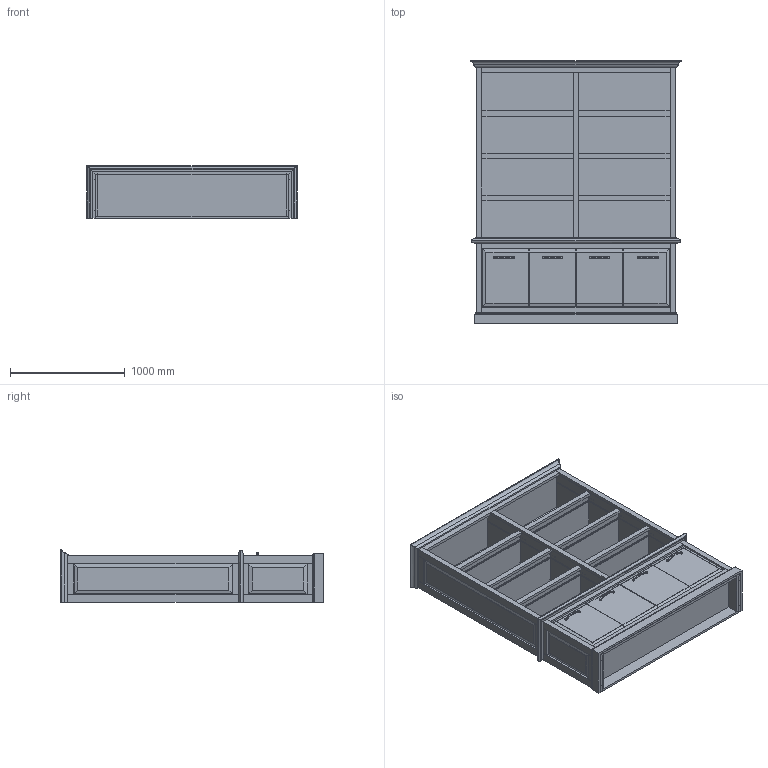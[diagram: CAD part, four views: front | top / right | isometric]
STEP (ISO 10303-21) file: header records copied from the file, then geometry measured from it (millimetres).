
FILE_DESCRIPTION(/* description */ ('','CAx-IF Rec.Pracs.---Representation and Presentation of Product Manufacturing Information (PMI)---4.0---2014-10-13'),/* implementation_level */ '2;1');
FILE_NAME(/* name */ 'CREDENZA STORAGE_CAMBRIDGE 4.stp',/* time_stamp */ '2024-12-07T17:43:35-05:00',/* author */ ('mbowman'),/* organization */ (''),/* preprocessor_version */ 'ST-DEVELOPER v19.2',/* originating_system */ 'Autodesk Inventor 2023',/* authorisation */ '');
FILE_SCHEMA (('AP242_MANAGED_MODEL_BASED_3D_ENGINEERING_MIM_LF { 1 0 10303 442 1 1 4 }'));
Length unit declared in the file: inch
Products named in the file (5): CAMBRIDGE^STORAGE 1_2 DOOR 3 SHELVES-SOLID ASSEMBLY; CAMBRIDGE^STORAGE 1_2 DOOR 3 SHELVES-PARTS SOLID; ART DECCO^GLAM-HAFELE 110_34_286; HAFELE^BUS BAR_ALUMINUM-BUS BAR (MOD LENGTH 59); HAFELE^BUS BAR LIGHT_ALUMINUM EXTRUSION-LIGHT BAR (MOD LENGTH 31.25)
Assembly tree (15 placements, depth 2):
  CAMBRIDGE^STORAGE 1_2 DOOR 3 SHELVES-SOLID ASSEMBLY
    CAMBRIDGE^STORAGE 1_2 DOOR 3 SHELVES-PARTS SOLID
    ART DECCO^GLAM-HAFELE 110_34_286  x4
    HAFELE^BUS BAR_ALUMINUM-BUS BAR (MOD LENGTH 59)  x4
    HAFELE^BUS BAR LIGHT_ALUMINUM EXTRUSION-LIGHT BAR (MOD LENGTH 31.25)  x6
Bounding box: 1828.8 x 2286 x 457.2 mm (x, y, z)
Volume: 310588931.1 mm3; surface area: 30934385.7 mm2
Topology: 108 solids, 108 shells, 1231 faces, 2797 edges, 1846 vertices
Faces by surface type: plane 993, cylinder 194, torus 32, bspline 12
Full cylindrical faces by diameter (mm): 5 x90, 7 x12, 7.7 x12
Entity records: 24364 total; most frequent: CARTESIAN_POINT 4957, DIRECTION 3624, ORIENTED_EDGE 3392, EDGE_CURVE 1696, LINE 1410, VECTOR 1410, VERTEX_POINT 1116, AXIS2_PLACEMENT_3D 1107
